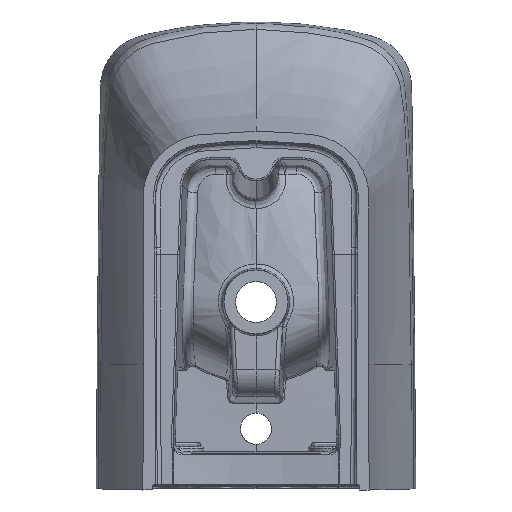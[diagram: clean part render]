
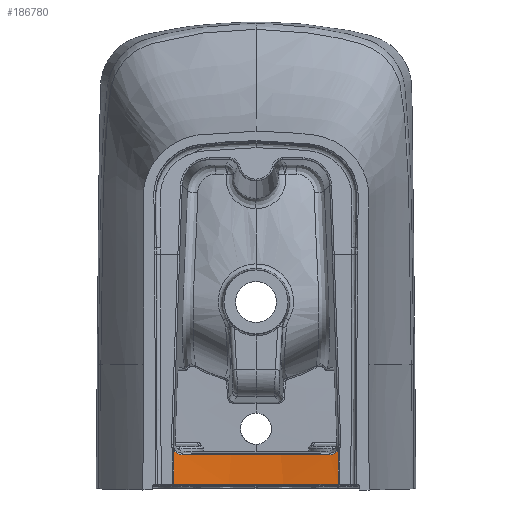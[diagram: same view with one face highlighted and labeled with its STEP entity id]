
A CAD part, front view. The second image highlights one B-rep face of the part: STEP entity #186780.
In plain terms, the highlighted cylindrical face has radius 566.84 mm (diameter 1133.68 mm), a partial arc.
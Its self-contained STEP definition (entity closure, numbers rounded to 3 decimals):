
#4801 = DIRECTION ( 'NONE',  ( -1., 0., 0. ) ) ;
#6284 = VECTOR ( 'NONE', #114626, 1000. ) ;
#7066 = CARTESIAN_POINT ( 'NONE',  ( 0., -880.14, -172.5 ) ) ;
#7729 = CARTESIAN_POINT ( 'NONE',  ( 91.903, -320.8, -170.535 ) ) ;
#8857 = EDGE_CURVE ( 'NONE', #92940, #29188, #85758, .T. ) ;
#10001 = CARTESIAN_POINT ( 'NONE',  ( 87.432, -320.083, -173.605 ) ) ;
#17603 = DIRECTION ( 'NONE',  ( 0., 0., 1. ) ) ;
#25514 = DIRECTION ( 'NONE',  ( 0., 0., -1. ) ) ;
#25794 = EDGE_CURVE ( 'NONE', #200563, #206275, #45270, .T. ) ;
#27784 = FACE_OUTER_BOUND ( 'NONE', #53980, .T. ) ;
#29188 = VERTEX_POINT ( 'NONE', #209058 ) ;
#29608 = CARTESIAN_POINT ( 'NONE',  ( 84.807, -319.679, -174.341 ) ) ;
#30088 = ORIENTED_EDGE ( 'NONE', *, *, #25794, .T. ) ;
#30123 = ORIENTED_EDGE ( 'NONE', *, *, #47749, .T. ) ;
#30861 = CARTESIAN_POINT ( 'NONE',  ( 92.467, -320.893, -169.805 ) ) ;
#33706 = VECTOR ( 'NONE', #17603, 1000. ) ;
#35967 = AXIS2_PLACEMENT_3D ( 'NONE', #176642, #173229, #209019 ) ;
#38337 = CARTESIAN_POINT ( 'NONE',  ( 92.467, -320.893, -172.5 ) ) ;
#42992 = CARTESIAN_POINT ( 'NONE',  ( -92.467, -320.893, -172.5 ) ) ;
#44643 = CARTESIAN_POINT ( 'NONE',  ( 82.992, -319.408, -174.444 ) ) ;
#44716 = AXIS2_PLACEMENT_3D ( 'NONE', #7066, #25514, #4801 ) ;
#45270 = LINE ( 'NONE', #42992, #6284 ) ;
#47749 = EDGE_CURVE ( 'NONE', #206275, #199223, #117120, .T. ) ;
#48967 = CARTESIAN_POINT ( 'NONE',  ( -90.212, -320.524, -172.044 ) ) ;
#53980 = EDGE_LOOP ( 'NONE', ( #105710, #114295, #30088, #30123, #146927, #214292 ) ) ;
#54639 = CARTESIAN_POINT ( 'NONE',  ( -92.467, -320.893, -207.5 ) ) ;
#55964 = AXIS2_PLACEMENT_3D ( 'NONE', #79002, #165717, #112552 ) ;
#63124 = CARTESIAN_POINT ( 'NONE',  ( 89.837, -320.464, -172.347 ) ) ;
#66313 = CARTESIAN_POINT ( 'NONE',  ( -89.842, -320.465, -172.312 ) ) ;
#67458 = CARTESIAN_POINT ( 'NONE',  ( -91.903, -320.8, -170.535 ) ) ;
#78192 = CARTESIAN_POINT ( 'NONE',  ( 91.264, -320.695, -171.189 ) ) ;
#79002 = CARTESIAN_POINT ( 'NONE',  ( 0., -880.14, -174.444 ) ) ;
#82509 = CARTESIAN_POINT ( 'NONE',  ( -87.858, -320.15, -173.426 ) ) ;
#82768 = CARTESIAN_POINT ( 'NONE',  ( 87.851, -320.149, -173.429 ) ) ;
#83657 = CARTESIAN_POINT ( 'NONE',  ( -82.992, -319.408, -174.444 ) ) ;
#84799 = CARTESIAN_POINT ( 'NONE',  ( -91.268, -320.695, -171.184 ) ) ;
#84910 = VERTEX_POINT ( 'NONE', #217407 ) ;
#85758 = B_SPLINE_CURVE_WITH_KNOTS ( 'NONE', 3,
 ( #167171, #7729, #78192, #63124, #117443, #82768, #10001, #202939, #150977, #29608, #135930, #44643 ),
 .UNSPECIFIED., .F., .F.,
 ( 4, 2, 2, 2, 2, 4 ),
 ( 0., 0.003, 0.006, 0.007, 0.008, 0.011 ),
 .UNSPECIFIED. ) ;
#88457 = EDGE_CURVE ( 'NONE', #84910, #200563, #92378, .T. ) ;
#92378 = B_SPLINE_CURVE_WITH_KNOTS ( 'NONE', 3,
 ( #83657, #226878, #102130, #133371, #135672, #137953, #82509, #120612, #186527, #66313, #48967, #84799, #67458, #208406 ),
 .UNSPECIFIED., .F., .F.,
 ( 4, 2, 2, 2, 2, 2, 4 ),
 ( 0., 0.003, 0.004, 0.006, 0.007, 0.008, 0.011 ),
 .UNSPECIFIED. ) ;
#92940 = VERTEX_POINT ( 'NONE', #30861 ) ;
#102130 = CARTESIAN_POINT ( 'NONE',  ( -84.812, -319.68, -174.341 ) ) ;
#105710 = ORIENTED_EDGE ( 'NONE', *, *, #191436, .T. ) ;
#112552 = DIRECTION ( 'NONE',  ( 1., 0., 0. ) ) ;
#114295 = ORIENTED_EDGE ( 'NONE', *, *, #88457, .T. ) ;
#114626 = DIRECTION ( 'NONE',  ( 0., 0., -1. ) ) ;
#117120 = CIRCLE ( 'NONE', #35967, 566.84 ) ;
#117443 = CARTESIAN_POINT ( 'NONE',  ( 89.072, -320.341, -172.834 ) ) ;
#120612 = CARTESIAN_POINT ( 'NONE',  ( -88.672, -320.278, -173.028 ) ) ;
#127793 = CARTESIAN_POINT ( 'NONE',  ( 92.467, -320.893, -207.5 ) ) ;
#133371 = CARTESIAN_POINT ( 'NONE',  ( -86.149, -319.885, -174.032 ) ) ;
#135672 = CARTESIAN_POINT ( 'NONE',  ( -86.588, -319.952, -173.904 ) ) ;
#135930 = CARTESIAN_POINT ( 'NONE',  ( 83.908, -319.544, -174.444 ) ) ;
#137953 = CARTESIAN_POINT ( 'NONE',  ( -87.441, -320.085, -173.601 ) ) ;
#144054 = CARTESIAN_POINT ( 'NONE',  ( -92.467, -320.893, -169.805 ) ) ;
#146927 = ORIENTED_EDGE ( 'NONE', *, *, #188369, .T. ) ;
#150977 = CARTESIAN_POINT ( 'NONE',  ( 86.131, -319.882, -174.037 ) ) ;
#155628 = CIRCLE ( 'NONE', #55964, 566.84 ) ;
#165717 = DIRECTION ( 'NONE',  ( 0., 0., 1. ) ) ;
#166508 = CYLINDRICAL_SURFACE ( 'NONE', #44716, 566.84 ) ;
#167171 = CARTESIAN_POINT ( 'NONE',  ( 92.467, -320.893, -169.805 ) ) ;
#173229 = DIRECTION ( 'NONE',  ( 0., 0., -1. ) ) ;
#176642 = CARTESIAN_POINT ( 'NONE',  ( 0., -880.14, -207.5 ) ) ;
#178192 = LINE ( 'NONE', #38337, #33706 ) ;
#186527 = CARTESIAN_POINT ( 'NONE',  ( -89.069, -320.341, -172.806 ) ) ;
#186780 = ADVANCED_FACE ( 'NONE', ( #27784 ), #166508, .F. ) ;
#188369 = EDGE_CURVE ( 'NONE', #199223, #92940, #178192, .T. ) ;
#191436 = EDGE_CURVE ( 'NONE', #29188, #84910, #155628, .T. ) ;
#199223 = VERTEX_POINT ( 'NONE', #127793 ) ;
#200563 = VERTEX_POINT ( 'NONE', #144054 ) ;
#202939 = CARTESIAN_POINT ( 'NONE',  ( 86.569, -319.949, -173.91 ) ) ;
#206275 = VERTEX_POINT ( 'NONE', #54639 ) ;
#208406 = CARTESIAN_POINT ( 'NONE',  ( -92.467, -320.893, -169.805 ) ) ;
#209019 = DIRECTION ( 'NONE',  ( -1., 0., 0. ) ) ;
#209058 = CARTESIAN_POINT ( 'NONE',  ( 82.992, -319.408, -174.444 ) ) ;
#214292 = ORIENTED_EDGE ( 'NONE', *, *, #8857, .T. ) ;
#217407 = CARTESIAN_POINT ( 'NONE',  ( -82.992, -319.408, -174.444 ) ) ;
#226878 = CARTESIAN_POINT ( 'NONE',  ( -83.908, -319.544, -174.444 ) ) ;
